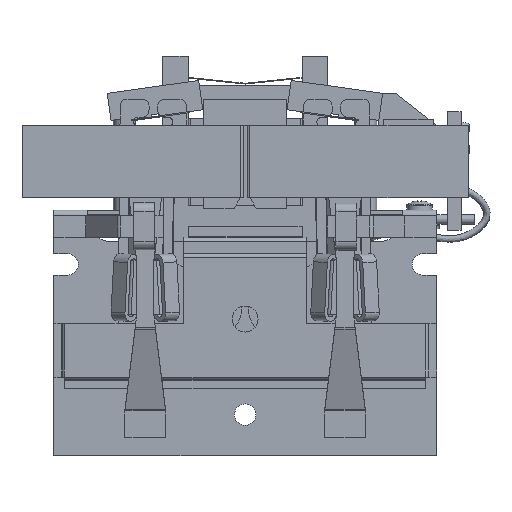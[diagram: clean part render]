
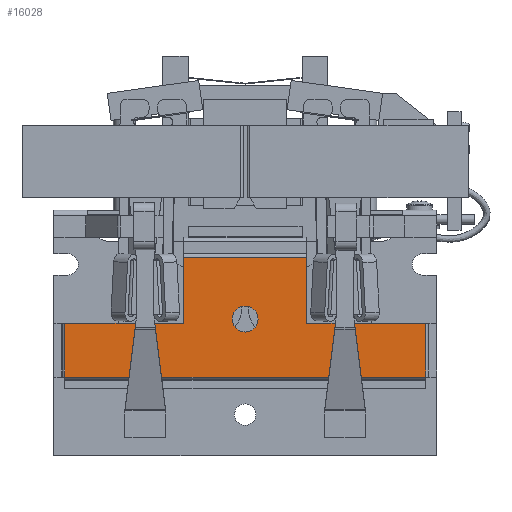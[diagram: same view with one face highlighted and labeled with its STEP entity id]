
A CAD part, top view. The second image highlights one B-rep face of the part: STEP entity #16028.
In plain terms, the highlighted planar face has unit normal (0, 0, 1).
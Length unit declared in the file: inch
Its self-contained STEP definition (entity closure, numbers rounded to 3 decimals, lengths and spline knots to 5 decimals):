
#24 = DIRECTION ( 'NONE',  ( 0., 1., 0. ) ) ;
#316 = DIRECTION ( 'NONE',  ( 0., 0., 1. ) ) ;
#514 = CARTESIAN_POINT ( 'NONE',  ( -0.825, -0.265, 0.045 ) ) ;
#526 = FACE_OUTER_BOUND ( 'NONE', #19614, .T. ) ;
#1165 = EDGE_CURVE ( 'NONE', #21341, #27435, #4656, .T. ) ;
#1808 = DIRECTION ( 'NONE',  ( -1., 0., 0. ) ) ;
#2489 = VECTOR ( 'NONE', #14778, 39.37008 ) ;
#2633 = ORIENTED_EDGE ( 'NONE', *, *, #12124, .T. ) ;
#2843 = CARTESIAN_POINT ( 'NONE',  ( 0.825, -0.02, 0.045 ) ) ;
#3042 = LINE ( 'NONE', #21177, #35264 ) ;
#4031 = DIRECTION ( 'NONE',  ( -1., 0., 0. ) ) ;
#4656 = LINE ( 'NONE', #23516, #38031 ) ;
#5154 = EDGE_LOOP ( 'NONE', ( #16671 ) ) ;
#5209 = ORIENTED_EDGE ( 'NONE', *, *, #22015, .F. ) ;
#6122 = ORIENTED_EDGE ( 'NONE', *, *, #22066, .T. ) ;
#6381 = LINE ( 'NONE', #514, #38681 ) ;
#6535 = VECTOR ( 'NONE', #4031, 39.37008 ) ;
#7345 = EDGE_CURVE ( 'NONE', #18733, #18733, #11831, .T. ) ;
#9357 = CARTESIAN_POINT ( 'NONE',  ( 0.282, 0.283, 0.045 ) ) ;
#10084 = LINE ( 'NONE', #31603, #6535 ) ;
#11719 = DIRECTION ( 'NONE',  ( -1., 0., 0. ) ) ;
#11831 = CIRCLE ( 'NONE', #29217, 0.05906 ) ;
#12124 = EDGE_CURVE ( 'NONE', #20988, #27366, #26182, .T. ) ;
#12574 = VERTEX_POINT ( 'NONE', #13815 ) ;
#12660 = CARTESIAN_POINT ( 'NONE',  ( 0.05906, 0., 0.045 ) ) ;
#13003 = CARTESIAN_POINT ( 'NONE',  ( 0.825, -0.265, 0.045 ) ) ;
#13032 = FACE_BOUND ( 'NONE', #5154, .T. ) ;
#13450 = CARTESIAN_POINT ( 'NONE',  ( -0.282, 0.283, 0.045 ) ) ;
#13745 = VERTEX_POINT ( 'NONE', #27876 ) ;
#13815 = CARTESIAN_POINT ( 'NONE',  ( -0.825, -0.265, 0.045 ) ) ;
#14503 = CARTESIAN_POINT ( 'NONE',  ( -0.282, -0.02, 0.045 ) ) ;
#14725 = ORIENTED_EDGE ( 'NONE', *, *, #26309, .T. ) ;
#14778 = DIRECTION ( 'NONE',  ( -1., 0., 0. ) ) ;
#15367 = EDGE_CURVE ( 'NONE', #12574, #34418, #6381, .T. ) ;
#15439 = ORIENTED_EDGE ( 'NONE', *, *, #15367, .F. ) ;
#15605 = AXIS2_PLACEMENT_3D ( 'NONE', #19262, #316, #34357 ) ;
#16028 = ADVANCED_FACE ( 'NONE', ( #526, #13032 ), #22045, .T. ) ;
#16671 = ORIENTED_EDGE ( 'NONE', *, *, #7345, .F. ) ;
#18733 = VERTEX_POINT ( 'NONE', #12660 ) ;
#18871 = DIRECTION ( 'NONE',  ( 0., 1., 0. ) ) ;
#18951 = EDGE_CURVE ( 'NONE', #27435, #29126, #10084, .T. ) ;
#19262 = CARTESIAN_POINT ( 'NONE',  ( 0.282, -0.265, 0.045 ) ) ;
#19523 = DIRECTION ( 'NONE',  ( 1., 0., 0. ) ) ;
#19549 = CARTESIAN_POINT ( 'NONE',  ( -0.282, 0.355, 0.045 ) ) ;
#19594 = ORIENTED_EDGE ( 'NONE', *, *, #18951, .T. ) ;
#19614 = EDGE_LOOP ( 'NONE', ( #5209, #28096, #19594, #6122, #29548, #2633, #14725, #15439 ) ) ;
#20685 = VECTOR ( 'NONE', #1808, 39.37008 ) ;
#20988 = VERTEX_POINT ( 'NONE', #13450 ) ;
#21177 = CARTESIAN_POINT ( 'NONE',  ( 0.282, 0.355, 0.045 ) ) ;
#21341 = VERTEX_POINT ( 'NONE', #13003 ) ;
#21571 = CARTESIAN_POINT ( 'NONE',  ( 0.282, -0.02, 0.045 ) ) ;
#22015 = EDGE_CURVE ( 'NONE', #21341, #12574, #36275, .T. ) ;
#22045 = PLANE ( 'NONE',  #15605 ) ;
#22066 = EDGE_CURVE ( 'NONE', #29126, #13745, #3042, .T. ) ;
#22466 = CARTESIAN_POINT ( 'NONE',  ( -0.282, -0.02, 0.045 ) ) ;
#23232 = CARTESIAN_POINT ( 'NONE',  ( -0.825, -0.02, 0.045 ) ) ;
#23328 = DIRECTION ( 'NONE',  ( 0., 1., 0. ) ) ;
#23516 = CARTESIAN_POINT ( 'NONE',  ( 0.825, -0.265, 0.045 ) ) ;
#25946 = DIRECTION ( 'NONE',  ( 0., 0., 1. ) ) ;
#26182 = LINE ( 'NONE', #19549, #38752 ) ;
#26226 = CARTESIAN_POINT ( 'NONE',  ( 0.282, -0.265, 0.045 ) ) ;
#26309 = EDGE_CURVE ( 'NONE', #27366, #34418, #39238, .T. ) ;
#27366 = VERTEX_POINT ( 'NONE', #22466 ) ;
#27435 = VERTEX_POINT ( 'NONE', #2843 ) ;
#27876 = CARTESIAN_POINT ( 'NONE',  ( 0.282, 0.283, 0.045 ) ) ;
#27881 = LINE ( 'NONE', #9357, #2489 ) ;
#28096 = ORIENTED_EDGE ( 'NONE', *, *, #1165, .T. ) ;
#29126 = VERTEX_POINT ( 'NONE', #21571 ) ;
#29217 = AXIS2_PLACEMENT_3D ( 'NONE', #38025, #25946, #19523 ) ;
#29548 = ORIENTED_EDGE ( 'NONE', *, *, #35668, .T. ) ;
#30728 = VECTOR ( 'NONE', #11719, 39.37008 ) ;
#31603 = CARTESIAN_POINT ( 'NONE',  ( 0.282, -0.02, 0.045 ) ) ;
#34357 = DIRECTION ( 'NONE',  ( 1., 0., 0. ) ) ;
#34418 = VERTEX_POINT ( 'NONE', #23232 ) ;
#35264 = VECTOR ( 'NONE', #24, 39.37008 ) ;
#35668 = EDGE_CURVE ( 'NONE', #13745, #20988, #27881, .T. ) ;
#36275 = LINE ( 'NONE', #26226, #30728 ) ;
#38025 = CARTESIAN_POINT ( 'NONE',  ( 0., 0., 0.045 ) ) ;
#38031 = VECTOR ( 'NONE', #23328, 39.37008 ) ;
#38468 = DIRECTION ( 'NONE',  ( 0., -1., 0. ) ) ;
#38681 = VECTOR ( 'NONE', #18871, 39.37008 ) ;
#38752 = VECTOR ( 'NONE', #38468, 39.37008 ) ;
#39238 = LINE ( 'NONE', #14503, #20685 ) ;
